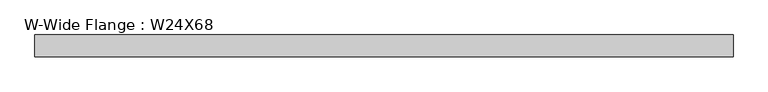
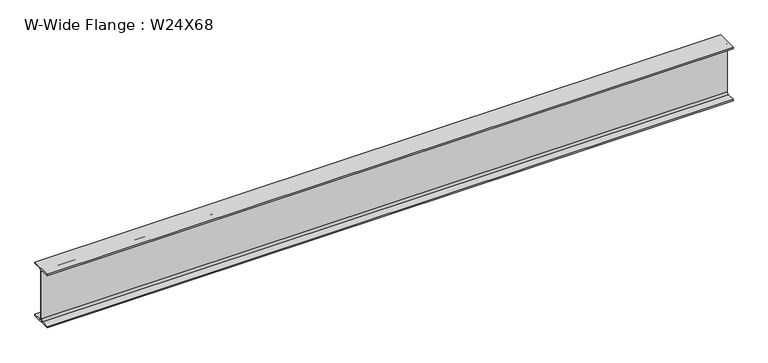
"""IFC4 building model written with IfcOpenShell, lengths in millimetres: beam geometry, W-Wide Flange : W24X68."""

from ifc_helpers import new_model, si_unit, point, frame, frame_2d, origin, place, context, project, spatial, polyline, circle_curve, trimmed, segment, composite_curve, outline, extrude, source, transform, mapped, element, save


def w_wide_flange_w24x68_4a461c08(model_context):
    return source(origin(), model_context, "Body", "SweptSolid", [
        extrude(outline(composite_curve([segment(polyline([(113.919, -286.131), (113.919, -300.99), (-113.919, -300.99), (-113.919, -286.131), (-28.5115, -286.131)]), True, "CONTINUOUS"), segment(trimmed(circle_curve(frame_2d((-28.5115, -262.89)), 23.241), [point((-28.5115, -286.131))], [point((-5.2705, -262.89))], True, "CARTESIAN"), True, "CONTINUOUS"), segment(polyline([(-5.2705, -262.89), (-5.2705, 262.89)]), True, "CONTINUOUS"), segment(trimmed(circle_curve(frame_2d((-28.5115, 262.89)), 23.241), [point((-5.2705, 262.89))], [point((-28.5115, 286.131))], True, "CARTESIAN"), True, "CONTINUOUS"), segment(polyline([(-28.5115, 286.131), (-113.919, 286.131), (-113.919, 300.99), (113.919, 300.99), (113.919, 286.131), (28.5115, 286.131)]), True, "CONTINUOUS"), segment(trimmed(circle_curve(frame_2d((28.5115, 262.89)), 23.241), [point((28.5115, 286.131))], [point((5.2705, 262.89))], True, "CARTESIAN"), True, "CONTINUOUS"), segment(polyline([(5.2705, 262.89), (5.2705, -262.89)]), True, "CONTINUOUS"), segment(trimmed(circle_curve(frame_2d((28.5115, -262.89)), 23.241), [point((5.2705, -262.89))], [point((28.5115, -286.131))], True, "CARTESIAN"), True, "CONTINUOUS"), segment(polyline([(28.5115, -286.131), (113.919, -286.131)]), True, "CONTINUOUS")], self_intersect=False)), frame((-3644.9, 0.0, 0.0), z_axis=(1.0, 0.0, 0.0), x_axis=(0.0, 1.0, 0.0)), (0.0, 0.0, 1.0), 7289.8),
    ])


if __name__ == "__main__":
    model = new_model("IFC4")
    model_context = context("Model", 3, world=origin())
    ifc_project = project(units=[si_unit("LENGTHUNIT", "METRE", prefix="MILLI")], contexts=[model_context])
    site = spatial("IfcSite", under=ifc_project)
    building = spatial("IfcBuilding", under=site)
    placement = place(None, origin())
    w_wide_flange_w24x68_shape = w_wide_flange_w24x68_4a461c08(model_context)
    element("IfcBeam", 1, ObjectType="W-Wide Flange : W24X68", at=placement, inside=building, context=model_context, shape_type="MappedRepresentation", body=[
        mapped(w_wide_flange_w24x68_shape, transform((0.0, 0.0, 0.0), x_axis=(1.0, 0.0, 0.0), y_axis=(0.0, 1.0, 0.0), z_axis=(0.0, 0.0, 1.0))),
    ])
    save(model, "model.ifc")
